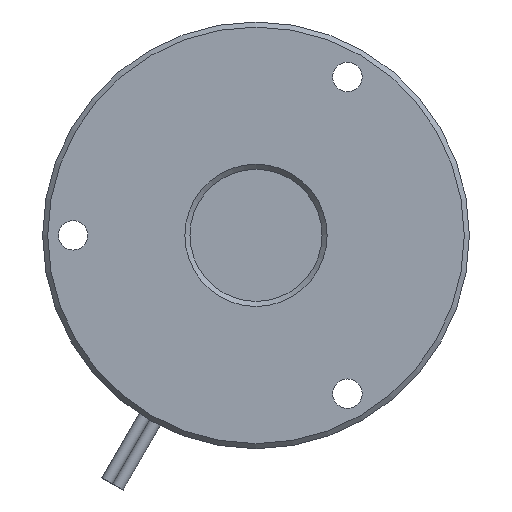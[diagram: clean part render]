
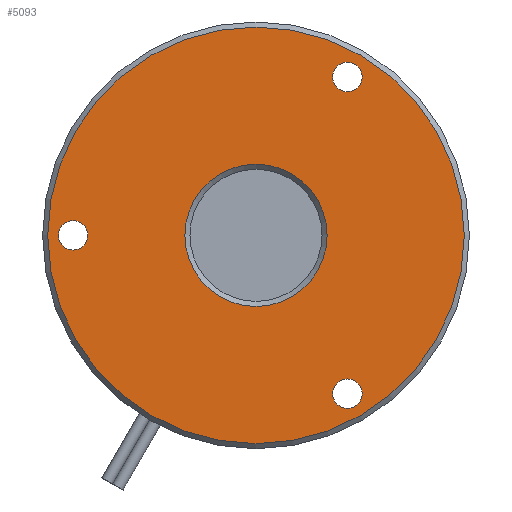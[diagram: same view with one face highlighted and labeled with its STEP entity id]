
A CAD part, left-side view. The second image highlights one B-rep face of the part: STEP entity #5093.
In plain terms, the highlighted planar face has unit normal (-1, 0, 0).
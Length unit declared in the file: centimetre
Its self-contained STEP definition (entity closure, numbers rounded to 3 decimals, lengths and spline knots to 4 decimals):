
#585=FACE_BOUND($,#700,.T.);
#586=FACE_BOUND($,#701,.T.);
#587=FACE_BOUND($,#702,.T.);
#588=FACE_BOUND($,#703,.T.);
#589=FACE_BOUND($,#704,.T.);
#700=EDGE_LOOP($,(#3295));
#701=EDGE_LOOP($,(#3296));
#702=EDGE_LOOP($,(#3297));
#703=EDGE_LOOP($,(#3298));
#704=EDGE_LOOP($,(#3299));
#1741=CIRCLE($,#5436,0.7);
#1742=CIRCLE($,#5437,2.05);
#1743=CIRCLE($,#5438,0.145);
#1744=CIRCLE($,#5439,0.145);
#1745=CIRCLE($,#5440,0.145);
#2063=VERTEX_POINT($,#7558);
#2064=VERTEX_POINT($,#7560);
#2065=VERTEX_POINT($,#7562);
#2066=VERTEX_POINT($,#7564);
#2067=VERTEX_POINT($,#7566);
#2560=EDGE_CURVE($,#2063,#2063,#1741,.T.);
#2561=EDGE_CURVE($,#2064,#2064,#1742,.T.);
#2562=EDGE_CURVE($,#2065,#2065,#1743,.T.);
#2563=EDGE_CURVE($,#2066,#2066,#1744,.T.);
#2564=EDGE_CURVE($,#2067,#2067,#1745,.T.);
#3295=ORIENTED_EDGE($,*,*,#2560,.F.);
#3296=ORIENTED_EDGE($,*,*,#2561,.F.);
#3297=ORIENTED_EDGE($,*,*,#2562,.T.);
#3298=ORIENTED_EDGE($,*,*,#2563,.T.);
#3299=ORIENTED_EDGE($,*,*,#2564,.T.);
#4695=PLANE($,#5435);
#5093=ADVANCED_FACE($,(#585,#586,#587,#588,#589),#4695,.F.);
#5435=AXIS2_PLACEMENT_3D($,#7557,#6085,#6086);
#5436=AXIS2_PLACEMENT_3D($,#7559,#6087,#6088);
#5437=AXIS2_PLACEMENT_3D($,#7561,#6089,#6090);
#5438=AXIS2_PLACEMENT_3D($,#7563,#6091,#6092);
#5439=AXIS2_PLACEMENT_3D($,#7565,#6093,#6094);
#5440=AXIS2_PLACEMENT_3D($,#7567,#6095,#6096);
#6085=DIRECTION('center_axis',(1.,0.,0.));
#6086=DIRECTION('ref_axis',(0.,0.,-1.));
#6087=DIRECTION('center_axis',(-1.,0.,0.));
#6088=DIRECTION('ref_axis',(0.,0.5,-0.866));
#6089=DIRECTION('center_axis',(1.,0.,0.));
#6090=DIRECTION('ref_axis',(0.,0.5,-0.866));
#6091=DIRECTION('center_axis',(1.,0.,0.));
#6092=DIRECTION('ref_axis',(0.,0.866,0.5));
#6093=DIRECTION('center_axis',(1.,0.,0.));
#6094=DIRECTION('ref_axis',(0.,-0.866,0.5));
#6095=DIRECTION('center_axis',(1.,0.,0.));
#6096=DIRECTION('ref_axis',(0.,0.,
-1.));
#7557=CARTESIAN_POINT('Origin',(0.,1.8541,
0.));
#7558=CARTESIAN_POINT('',(0.,0.3041,0.6062));
#7559=CARTESIAN_POINT('Origin',(0.,0.6541,
0.));
#7560=CARTESIAN_POINT('',(0.,-0.3709,1.7754));
#7561=CARTESIAN_POINT('Origin',(0.,0.6541,
0.));
#7562=CARTESIAN_POINT('',(0.,-0.3715,1.4863));
#7563=CARTESIAN_POINT('Origin',(0.,-0.2459,
1.5588));
#7564=CARTESIAN_POINT('',(0.,-0.1204,-1.6313));
#7565=CARTESIAN_POINT('Origin',(0.,-0.2459,
-1.5588));
#7566=CARTESIAN_POINT('',(0.,2.4541,0.145));
#7567=CARTESIAN_POINT('Origin',(0.,2.4541,
0.));
